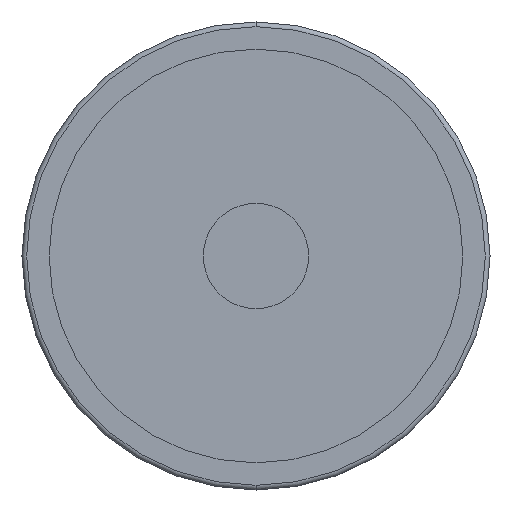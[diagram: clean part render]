
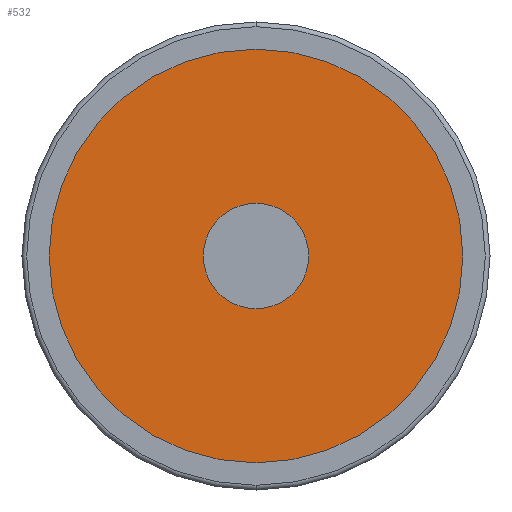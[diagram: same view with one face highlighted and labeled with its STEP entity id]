
A CAD part, front view. The second image highlights one B-rep face of the part: STEP entity #532.
In plain terms, the highlighted planar face has unit normal (0, -1, 0).
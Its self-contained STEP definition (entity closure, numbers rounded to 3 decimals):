
#100 = DIRECTION ( 'NONE',  ( 1., 0., 0. ) ) ;
#101 = VERTEX_POINT ( 'NONE', #897 ) ;
#143 = CIRCLE ( 'NONE', #2712, 44.3 ) ;
#202 = CARTESIAN_POINT ( 'NONE',  ( -44.3, 4.5, 0. ) ) ;
#262 = CARTESIAN_POINT ( 'NONE',  ( 0., 4.5, 0. ) ) ;
#325 = DIRECTION ( 'NONE',  ( 0., -1., 0. ) ) ;
#362 = VERTEX_POINT ( 'NONE', #634 ) ;
#532 = ADVANCED_FACE ( 'NONE', ( #2012, #747 ), #3205, .T. ) ;
#549 = DIRECTION ( 'NONE',  ( 1., 0., 0. ) ) ;
#566 = AXIS2_PLACEMENT_3D ( 'NONE', #2276, #3008, #1027 ) ;
#634 = CARTESIAN_POINT ( 'NONE',  ( 44.3, 4.5, 0. ) ) ;
#711 = VERTEX_POINT ( 'NONE', #202 ) ;
#747 = FACE_BOUND ( 'NONE', #2530, .T. ) ;
#783 = CARTESIAN_POINT ( 'NONE',  ( 0., 4.5, 0. ) ) ;
#795 = DIRECTION ( 'NONE',  ( 1., 0., 0. ) ) ;
#897 = CARTESIAN_POINT ( 'NONE',  ( -10.25, 4.5, 0. ) ) ;
#941 = AXIS2_PLACEMENT_3D ( 'NONE', #1975, #2066, #3047 ) ;
#1025 = CARTESIAN_POINT ( 'NONE',  ( 10.25, 4.5, 0. ) ) ;
#1027 = DIRECTION ( 'NONE',  ( 1., 0., 0. ) ) ;
#1196 = AXIS2_PLACEMENT_3D ( 'NONE', #783, #325, #549 ) ;
#1355 = CIRCLE ( 'NONE', #2597, 44.3 ) ;
#1376 = EDGE_LOOP ( 'NONE', ( #2857, #1656 ) ) ;
#1381 = EDGE_CURVE ( 'NONE', #101, #1800, #2590, .T. ) ;
#1556 = DIRECTION ( 'NONE',  ( 0., -1., 0. ) ) ;
#1561 = ORIENTED_EDGE ( 'NONE', *, *, #2771, .F. ) ;
#1656 = ORIENTED_EDGE ( 'NONE', *, *, #1694, .T. ) ;
#1694 = EDGE_CURVE ( 'NONE', #362, #711, #1355, .T. ) ;
#1800 = VERTEX_POINT ( 'NONE', #1025 ) ;
#1975 = CARTESIAN_POINT ( 'NONE',  ( -44.3, 4.5, 0. ) ) ;
#2012 = FACE_OUTER_BOUND ( 'NONE', #1376, .T. ) ;
#2066 = DIRECTION ( 'NONE',  ( 0., -1., 0. ) ) ;
#2276 = CARTESIAN_POINT ( 'NONE',  ( 0., 4.5, 0. ) ) ;
#2288 = DIRECTION ( 'NONE',  ( 0., -1., 0. ) ) ;
#2442 = ORIENTED_EDGE ( 'NONE', *, *, #1381, .F. ) ;
#2530 = EDGE_LOOP ( 'NONE', ( #1561, #2442 ) ) ;
#2590 = CIRCLE ( 'NONE', #1196, 10.25 ) ;
#2597 = AXIS2_PLACEMENT_3D ( 'NONE', #3043, #2288, #795 ) ;
#2712 = AXIS2_PLACEMENT_3D ( 'NONE', #262, #1556, #100 ) ;
#2742 = EDGE_CURVE ( 'NONE', #711, #362, #143, .T. ) ;
#2771 = EDGE_CURVE ( 'NONE', #1800, #101, #3132, .T. ) ;
#2857 = ORIENTED_EDGE ( 'NONE', *, *, #2742, .T. ) ;
#3008 = DIRECTION ( 'NONE',  ( 0., -1., 0. ) ) ;
#3043 = CARTESIAN_POINT ( 'NONE',  ( 0., 4.5, 0. ) ) ;
#3047 = DIRECTION ( 'NONE',  ( 1., 0., 0. ) ) ;
#3132 = CIRCLE ( 'NONE', #566, 10.25 ) ;
#3205 = PLANE ( 'NONE',  #941 ) ;
